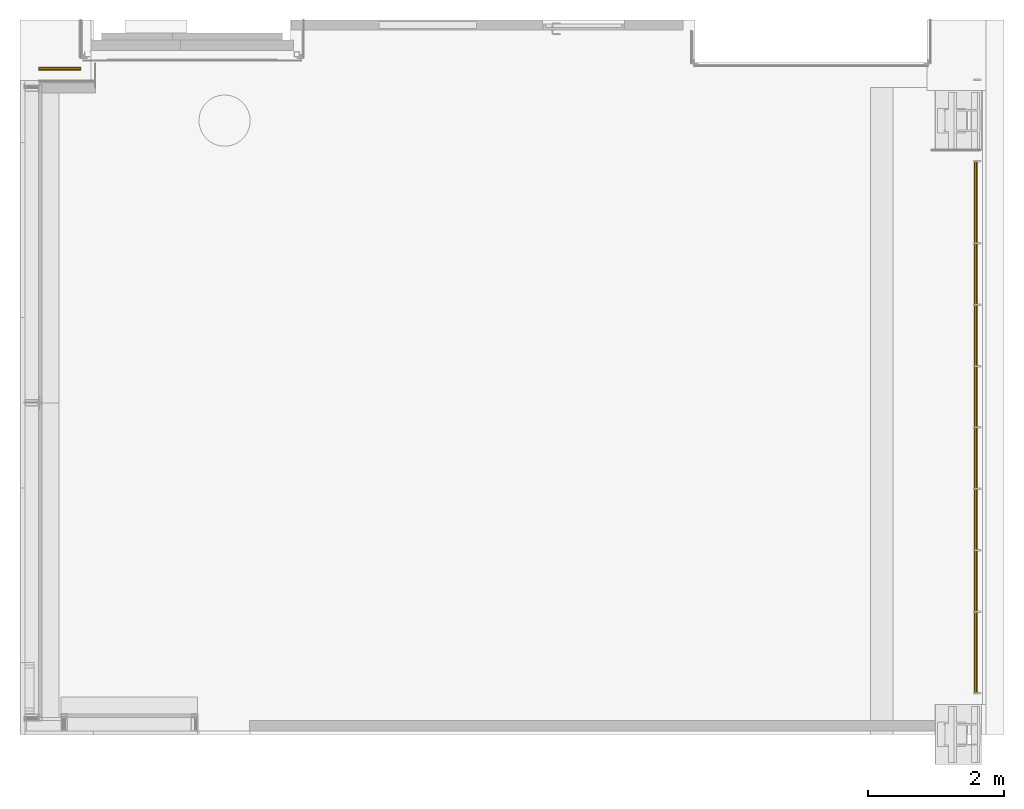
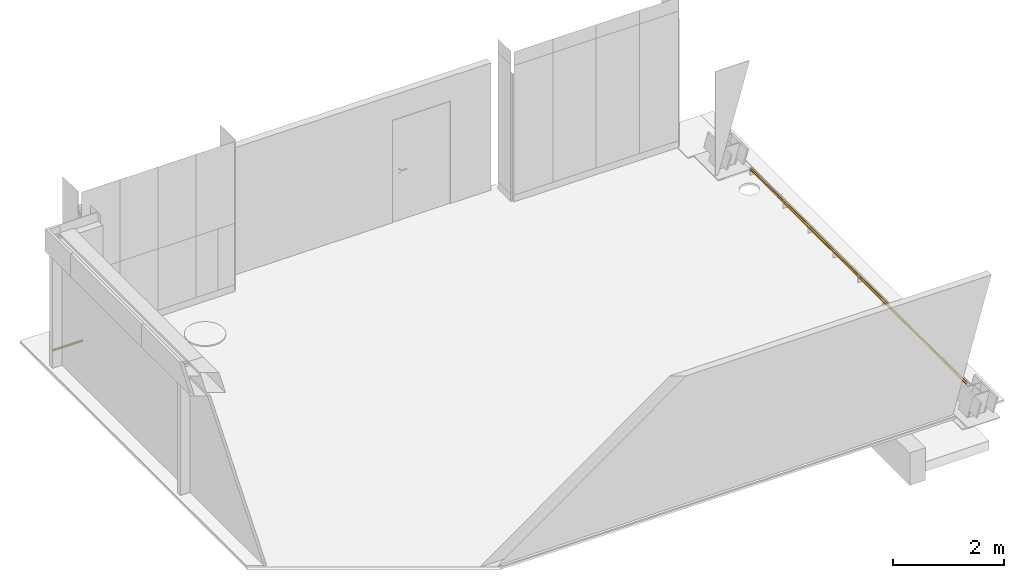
# One storey, part 9 of 14: 2 railings.
"""IFC2X3 building model written with IfcOpenShell, lengths in millimetres."""

from ifc_helpers import new_model, entity, si_unit, converted_unit, derived_unit, direction, frame, frame_2d, origin, origin_with_axes, place, context, subcontext, project, spatial, circle, extrude, source, transform, mapped, material, type_object, element, save


model = new_model("IFC2X3")

# Units and contexts
model_context = context("Model", 3, precision=0.01, world=frame((0.0, 4.29681676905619e-09, 0.0)), true_north=direction((4.01073788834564e-13, 1.0)))
plan_context = context("Plan", 3, precision=0.01, world=frame((0.0, 4.29681676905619e-09, 0.0)), true_north=direction((4.01073788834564e-13, 1.0)))
body_context = subcontext(model_context, "Body", "Model", "MODEL_VIEW")
ifc_project = project(units=[converted_unit("PLANEANGLEUNIT", "DEGREE", entity("IfcPositiveLengthMeasure", 0.0174532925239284), si_unit("PLANEANGLEUNIT", "RADIAN"), dimensions=[0, 0, 0, 0, 0, 0, 0]), si_unit("AREAUNIT", "SQUARE_METRE"), si_unit("LENGTHUNIT", "METRE", prefix="MILLI"), si_unit("MASSUNIT", "GRAM", prefix="KILO"), si_unit("POWERUNIT", "WATT"), si_unit("PRESSUREUNIT", "PASCAL"), si_unit("FORCEUNIT", "NEWTON", prefix="KILO"), si_unit("ELECTRICVOLTAGEUNIT", "VOLT"), si_unit("ELECTRICCURRENTUNIT", "AMPERE"), si_unit("THERMODYNAMICTEMPERATUREUNIT", "DEGREE_CELSIUS"), si_unit("TIMEUNIT", "SECOND"), si_unit("VOLUMEUNIT", "CUBIC_METRE"), derived_unit("LINEARVELOCITYUNIT", [(si_unit("LENGTHUNIT", "METRE"), 1), (si_unit("TIMEUNIT", "SECOND"), -1)]), derived_unit("VOLUMETRICFLOWRATEUNIT", [(si_unit("VOLUMEUNIT", "CUBIC_METRE"), 1), (si_unit("TIMEUNIT", "SECOND"), -1)]), derived_unit("THERMALTRANSMITTANCEUNIT", [(si_unit("POWERUNIT", "WATT"), 1), (si_unit("THERMODYNAMICTEMPERATUREUNIT", "KELVIN"), -1), (si_unit("AREAUNIT", "SQUARE_METRE"), -1)]), derived_unit("SOUNDPRESSUREUNIT", [(si_unit("PRESSUREUNIT", "PASCAL"), 1)])], contexts=[model_context, plan_context])

# Site, building, storey
site_placement = place(None, origin_with_axes())
site = spatial("IfcSite", under=ifc_project, at=site_placement, Name="ENGM", CompositionType="ELEMENT")
building_placement = place(site_placement, origin_with_axes())
building = spatial("IfcBuilding", under=site, at=building_placement, Name="TI", CompositionType="ELEMENT")
storey_placement = place(building_placement, frame((0.0, 0.0, 210900.0), z_axis=(0.0, 0.0, 1.0), x_axis=(1.0, 0.0, 0.0)))
storey = spatial("IfcBuildingStorey", under=building, at=storey_placement, Name="Nivå F", CompositionType="ELEMENT", Elevation=210900.0)

# Railings
ifc_material = material(Name="<Unnamed>")
railing_type_1 = type_object("IfcRailingType", Name="A247 - Fendring:A247 Fendring - FE-S01 - Avviser, montert m. brakett mot dekke, 1 rør Ø=49 mm", PredefinedType="NOTDEFINED", material=ifc_material)
shared_shape_1 = source(origin(), body_context, "Body", "SweptSolid", [
    extrude(circle(Radius=24.2, at=frame_2d((-8.91975475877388e-16, -1.01518793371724e-13), x_axis=(1.0, 0.0))), frame((0.0, 0.0, 123.349999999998), z_axis=(1.0, 0.0, 0.0), x_axis=(0.0, -1.0, 0.0)), (0.0, 0.0, 1.0), 7799.67226562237),
])
railing_1_placement = place(storey_placement, frame((612015.956382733, 689603.386705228, 0.0), z_axis=(0.0, 0.0, 1.0), x_axis=(0.0, 1.0, 0.0)))
element("IfcRailing", 1, at=railing_1_placement, inside=storey, type_object=railing_type_1, material=ifc_material, Name="A247 - Fendring:A247 Fendring - FE-S01 - Avviser, montert m. brakett mot dekke, 1 rør Ø=49 mm", ObjectType="A247 - Fendring:A247 Fendring - FE-S01 - Avviser, montert m. brakett mot dekke, 1 rør Ø=49 mm", PredefinedType="NOTDEFINED", context=body_context, shape_type="MappedRepresentation", body=[
    mapped(shared_shape_1, transform((0.0, 0.0, 0.0), scale=1.0)),
])
railing_type_2 = type_object("IfcRailingType", Name="A247 - Fendring:A247 Fendring - FE-S01 - Avviser, montert m. brakett mot dekke, 1 rør Ø=49 mm", PredefinedType="NOTDEFINED", material=ifc_material)
shared_shape_2 = source(origin(), body_context, "Body", "SweptSolid", [
    extrude(circle(Radius=24.2, at=frame_2d((-8.91975475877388e-16, -1.01518793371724e-13), x_axis=(1.0, 0.0))), frame((0.0, 0.0, 123.349999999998), z_axis=(1.0, 0.0, 0.0), x_axis=(0.0, -1.0, 0.0)), (0.0, 0.0, 1.0), 622.513867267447),
])
railing_2_placement = place(storey_placement, frame((598269.69082557, 698761.010568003, 0.0), z_axis=(0.0, 0.0, 1.0), x_axis=(1.0, 0.0, 0.0)))
element("IfcRailing", 2, at=railing_2_placement, inside=storey, type_object=railing_type_2, material=ifc_material, Name="A247 - Fendring:A247 Fendring - FE-S01 - Avviser, montert m. brakett mot dekke, 1 rør Ø=49 mm", ObjectType="A247 - Fendring:A247 Fendring - FE-S01 - Avviser, montert m. brakett mot dekke, 1 rør Ø=49 mm", PredefinedType="NOTDEFINED", context=body_context, shape_type="MappedRepresentation", body=[
    mapped(shared_shape_2, transform((0.0, 0.0, 0.0), scale=1.0)),
])

save(model, "model.ifc")
